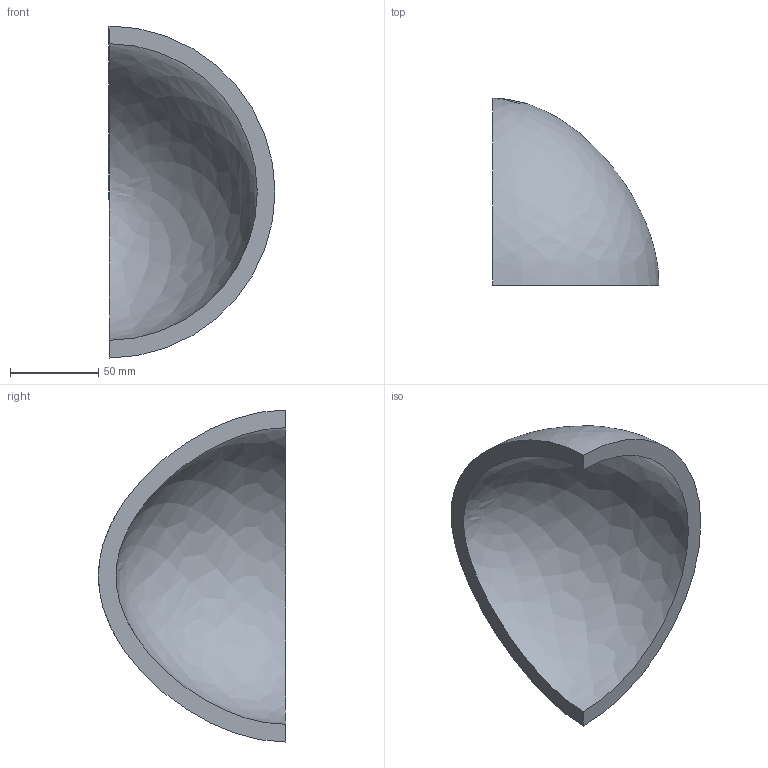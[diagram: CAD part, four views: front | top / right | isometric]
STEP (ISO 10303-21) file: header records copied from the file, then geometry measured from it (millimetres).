
FILE_DESCRIPTION(('CATIA V5 STEP Exchange'),'2;1');
FILE_NAME('C:\_Andres\UNIVERSIDAD\IQS\ASIGNATURAS\DAO\EXF\EXF-16172c\2inicio\Campmany_Monforte_Ej10_v6.stp','2017-03-05T22:31:09+00:00',('none'),('none'),'CATIA Version 5-6 Release 2014 SP1 HF18','CATIA V5 STEP AP203','none');
FILE_SCHEMA(('CONFIG_CONTROL_DESIGN'));
Length unit declared in the file: millimetre
Products named in the file (1): Campmany_Monforte_Ej10_v6
Bounding box: 94 x 106 x 188 mm (x, y, z)
Volume: 258688.6 mm3; surface area: 57563.2 mm2
Topology: 1 solids, 1 shells, 4 faces, 10 edges, 6 vertices
Faces by surface type: revolution 2, plane 2
Entity records: 239 total; most frequent: CARTESIAN_POINT 117, ORIENTED_EDGE 16, DIRECTION 10, EDGE_CURVE 8, B_SPLINE_CURVE_WITH_KNOTS 6, VERTEX_POINT 6, AXIS2_PLACEMENT_3D 5, ADVANCED_FACE 4
